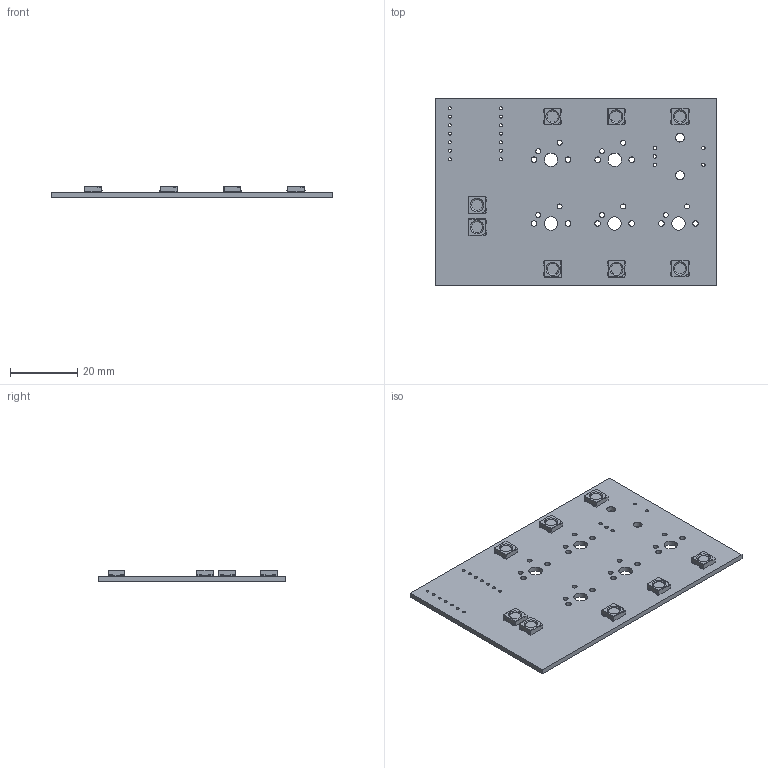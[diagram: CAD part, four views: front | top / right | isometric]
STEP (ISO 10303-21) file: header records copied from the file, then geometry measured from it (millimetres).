
FILE_DESCRIPTION(('KiCad electronic assembly'),'2;1');
FILE_NAME('KEYPAD.step','2025-12-25T19:54:17',('Pcbnew'),('Kicad'), 'Open CASCADE STEP processor 7.9','KiCad to STEP converter','Unknown' );
FILE_SCHEMA(('AUTOMOTIVE_DESIGN { 1 0 10303 214 1 1 1 1 }'));
Length unit declared in the file: millimetre
Products named in the file (3): KEYPAD 1; LED_SK6812_PLCC4_5.0x5.0mm_P3.2mm; KEYPAD_PCB
Assembly tree (9 placements, depth 2):
  KEYPAD 1
    LED_SK6812_PLCC4_5.0x5.0mm_P3.2mm  x8
    KEYPAD_PCB
Bounding box: 84 x 56 x 3.29 mm (x, y, z)
Volume: 7203.2 mm3; surface area: 10658.7 mm2
Topology: 9 solids, 9 shells, 596 faces, 1758 edges, 1156 vertices
Faces by surface type: plane 366, cylinder 222, cone 8
Full cylindrical faces by diameter (mm): 0.889 x14, 1 x5, 1.5 x10, 1.7 x10, 2.6 x2, 3.333 x8, 4 x5
Entity records: 4808 total; most frequent: DIRECTION 743, CARTESIAN_POINT 713, ORIENTED_EDGE 702, EDGE_CURVE 351, AXIS2_PLACEMENT_3D 262, VERTEX_POINT 232, LINE 219, VECTOR 219
